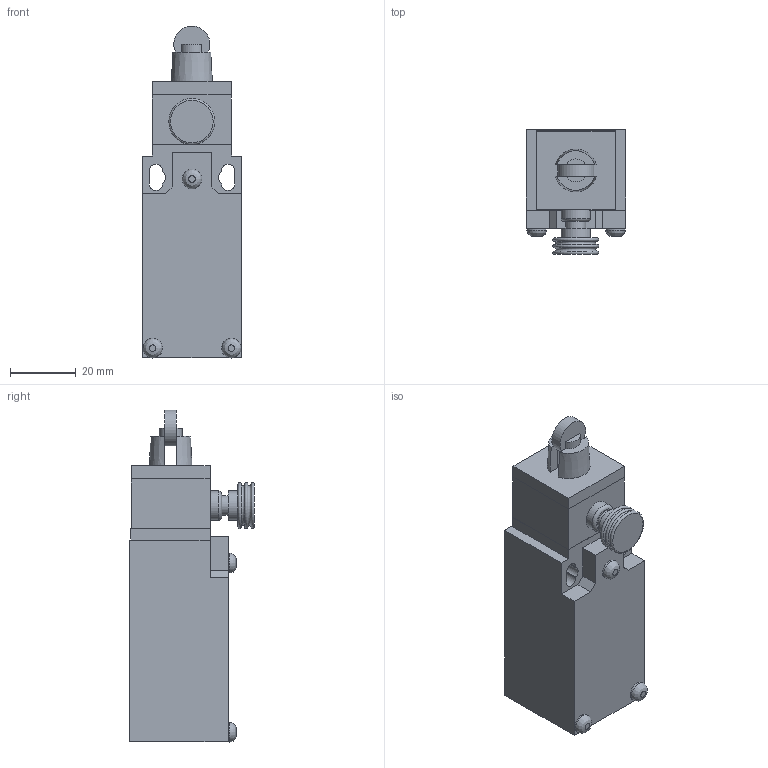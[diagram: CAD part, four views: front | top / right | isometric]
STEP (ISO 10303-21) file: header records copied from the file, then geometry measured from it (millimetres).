
FILE_DESCRIPTION((''),'2;1');
FILE_NAME('C:\Workarea\Disegni\Comepi\Catalogo\Stp\Finecorsa\AM1-R13.stp','2011-08-29T10:12:49',('Paolo'),(''),'Autodesk Inventor 2012','Autodesk Inventor 2012','');
FILE_SCHEMA(('AUTOMOTIVE_DESIGN { 1 0 10303 214 1 1 1 1 }'));
Length unit declared in the file: millimetre
Products named in the file (6): AM1-R13; AM1; R13; T12_1; T12_2; R
Assembly tree (5 placements, depth 3):
  AM1-R13
    AM1
    R13
      T12_1
      T12_2
      R
Bounding box: 30.3 x 38 x 101.1 mm (x, y, z)
Volume: 64082.1 mm3; surface area: 17507.2 mm2
Topology: 4 solids, 4 shells, 90 faces, 210 edges, 134 vertices
Faces by surface type: plane 62, cylinder 17, torus 6, bspline 3, cone 2
Full cylindrical faces by diameter (mm): 6 x4, 7 x1, 9 x2, 11 x1, 20.4 x1
Entity records: 2764 total; most frequent: CARTESIAN_POINT 561, DIRECTION 434, ORIENTED_EDGE 378, EDGE_CURVE 189, AXIS2_PLACEMENT_3D 151, VECTOR 132, LINE 132, VERTEX_POINT 131
